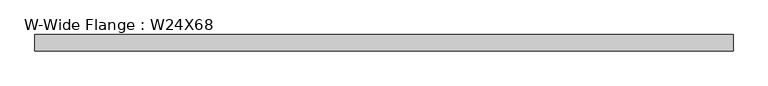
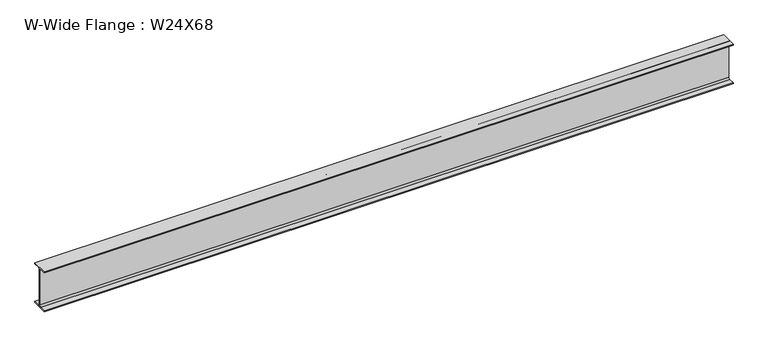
"""IFC4 building model written with IfcOpenShell, lengths in millimetres: beam geometry, W-Wide Flange : W24X68."""

import ifcopenshell
import ifcopenshell.guid

model = None  # the IFC model being written
_history = None  # IfcOwnerHistory: only IFC2X3 demands one
_inside = {}  # id of a spatial element -> (the spatial element, [elements in it])
_under = {}  # id of a project, library or spatial element -> (it, [spatial elements below it])
_declared = {}  # id of a project -> (the project, [libraries it declares])
_typed = {}  # id of a type object -> (the type object, [elements of that type])
_made_of = {}  # id of a material, layer set ... -> (it, [elements and type objects made of it])


def new_model(schema):
    """Start an empty IFC model of exactly this schema.

    Asked for "IFC4X3", IfcOpenShell would pick the latest addendum, in which some entities
    have other attributes; the version numbers below select the first issue.
    IFC2X3 requires an IfcOwnerHistory on every rooted entity: one is made here for all.
    """
    global model, _history
    if schema == "IFC4X3":
        model = ifcopenshell.file(schema_version=(4, 3, 0, 0))
    else:
        model = ifcopenshell.file(schema=schema)
    _inside.clear()
    _under.clear()
    _declared.clear()
    _typed.clear()
    _made_of.clear()
    _history = None
    if model.schema == "IFC2X3":
        org = make("IfcOrganization", Name="unknown")
        user = make(
            "IfcPersonAndOrganization",
            ThePerson=make("IfcPerson", FamilyName="unknown"),
            TheOrganization=org,
        )
        app = make(
            "IfcApplication",
            ApplicationDeveloper=org,
            Version="unknown",
            ApplicationFullName="unknown",
            ApplicationIdentifier="unknown",
        )
        _history = make(
            "IfcOwnerHistory",
            OwningUser=user,
            OwningApplication=app,
            ChangeAction="ADDED",
            CreationDate=0,
        )
    return model


def make(cls, **values):
    """One entity of the class cls with the attributes given. An attribute that is None is left unset."""
    return model.create_entity(
        cls, **{name: value for name, value in values.items() if value is not None}
    )


def rooted(cls, **values):
    """An entity with a GlobalId (a new one), such as an element, a storey or a relation."""
    return make(cls, GlobalId=ifcopenshell.guid.new(), OwnerHistory=_history, **values)


def si_unit(unit_type, name, prefix=None):
    """IfcSIUnit, for example si_unit("LENGTHUNIT", "METRE", prefix="MILLI")."""
    return make("IfcSIUnit", UnitType=unit_type, Prefix=prefix, Name=name)


def assignment(units):
    """IfcUnitAssignment: the units of a project."""
    return None if units is None else make("IfcUnitAssignment", Units=units)


def point(xyz):
    """IfcCartesianPoint."""
    return None if xyz is None else make("IfcCartesianPoint", Coordinates=xyz)


def direction(xyz):
    """IfcDirection."""
    return None if xyz is None else make("IfcDirection", DirectionRatios=xyz)


def frame(location, z_axis=None, x_axis=None):
    """IfcAxis2Placement3D, a coordinate frame: its origin and axes. An axis left out is left unset."""
    return make(
        "IfcAxis2Placement3D",
        Location=point(location),
        Axis=direction(z_axis),
        RefDirection=direction(x_axis),
    )


def frame_2d(location, x_axis=None):
    """IfcAxis2Placement2D, a coordinate frame in the plane: its origin and x axis."""
    return make(
        "IfcAxis2Placement2D", Location=point(location), RefDirection=direction(x_axis)
    )


def origin():
    """The frame at (0, 0, 0) with its axes left unset."""
    return frame((0.0, 0.0, 0.0))


def place(relative_to, where):
    """IfcLocalPlacement: puts the frame where relative to a parent placement (None: the world)."""
    return make(
        "IfcLocalPlacement", PlacementRelTo=relative_to, RelativePlacement=where
    )


def context(
    kind, dimensions, precision=None, world=None, true_north=None, identifier=None
):
    """IfcGeometricRepresentationContext, for example the 3D "Model" context."""
    return make(
        "IfcGeometricRepresentationContext",
        ContextIdentifier=identifier,
        ContextType=kind,
        CoordinateSpaceDimension=dimensions,
        Precision=precision,
        WorldCoordinateSystem=world,
        TrueNorth=true_north,
    )


def project(units=None, contexts=None):
    """IfcProject with its units and contexts."""
    return rooted(
        "IfcProject",
        Name="project",
        RepresentationContexts=contexts,
        UnitsInContext=assignment(units),
    )


def spatial(cls, under=None, at=None, **own):
    """A site, building, storey or space (cls), placed at a placement, below another one or the project."""
    s = rooted(cls, ObjectPlacement=at, **own)
    if under is not None:
        _under.setdefault(under.id(), (under, []))[1].append(s)
    return s


def polyline(points):
    """IfcPolyline through the points."""
    return make("IfcPolyline", Points=[point(p) for p in points])


def circle_curve(where, radius):
    """IfcCircle in the frame where."""
    return make("IfcCircle", Position=where, Radius=radius)


def trimmed(basis, trim1, trim2, sense, master):
    """IfcTrimmedCurve: the piece of a basis curve between two trims."""
    return make(
        "IfcTrimmedCurve",
        BasisCurve=basis,
        Trim1=trim1,
        Trim2=trim2,
        SenseAgreement=sense,
        MasterRepresentation=master,
    )


def segment(curve, same_sense, transition):
    """IfcCompositeCurveSegment."""
    return make(
        "IfcCompositeCurveSegment",
        Transition=transition,
        SameSense=same_sense,
        ParentCurve=curve,
    )


def composite_curve(segments, self_intersect=None):
    """IfcCompositeCurve: segments joined end to end."""
    return make("IfcCompositeCurve", Segments=segments, SelfIntersect=self_intersect)


def outline(outer, holes=None, kind="AREA"):
    """IfcArbitraryClosedProfileDef: a profile drawn as a closed curve; with holes, ...WithVoids."""
    if holes is None:
        return make("IfcArbitraryClosedProfileDef", ProfileType=kind, OuterCurve=outer)
    return make(
        "IfcArbitraryProfileDefWithVoids",
        ProfileType=kind,
        OuterCurve=outer,
        InnerCurves=holes,
    )


def extrude(swept, where, along, depth):
    """IfcExtrudedAreaSolid: the profile swept, set in the frame where, extruded along a direction by depth."""
    return make(
        "IfcExtrudedAreaSolid",
        SweptArea=swept,
        Position=where,
        ExtrudedDirection=direction(along),
        Depth=depth,
    )


def shape(context_of_items, identifier, shape_type, items):
    """IfcShapeRepresentation: the items that make up one representation, for example the "Body"."""
    return make(
        "IfcShapeRepresentation",
        ContextOfItems=context_of_items,
        RepresentationIdentifier=identifier,
        RepresentationType=shape_type,
        Items=items,
    )


def source(mapping_origin, context_of_items, identifier, shape_type, items):
    """IfcRepresentationMap: a shape defined once, which mapped items show again and again."""
    return make(
        "IfcRepresentationMap",
        MappingOrigin=mapping_origin,
        MappedRepresentation=shape(context_of_items, identifier, shape_type, items),
    )


def transform(
    local_origin,
    x_axis=None,
    y_axis=None,
    z_axis=None,
    scale=None,
    scale2=None,
    scale3=None,
    uniform=True,
):
    """IfcCartesianTransformationOperator3D, or its non-uniform kind. x_axis, y_axis, z_axis: its Axis1, 2, 3."""
    if uniform:
        return make(
            "IfcCartesianTransformationOperator3D",
            Axis1=direction(x_axis),
            Axis2=direction(y_axis),
            LocalOrigin=point(local_origin),
            Scale=scale,
            Axis3=direction(z_axis),
        )
    return make(
        "IfcCartesianTransformationOperator3DnonUniform",
        Axis1=direction(x_axis),
        Axis2=direction(y_axis),
        LocalOrigin=point(local_origin),
        Scale=scale,
        Axis3=direction(z_axis),
        Scale2=scale2,
        Scale3=scale3,
    )


def mapped(mapping_source, mapping_target):
    """IfcMappedItem: shows the shape of a source again, moved by a transform."""
    return make(
        "IfcMappedItem", MappingSource=mapping_source, MappingTarget=mapping_target
    )


def made_of(thing, what):
    """Note that an element or type object is made of a material, layer set ...; save() writes the relation."""
    if what is not None:
        _made_of.setdefault(what.id(), (what, []))[1].append(thing)
    return thing


def element(
    cls,
    number,
    at=None,
    inside=None,
    cuts=None,
    type_object=None,
    material=None,
    context=None,
    identifier="Body",
    shape_type=None,
    held_by="IfcProductDefinitionShape",
    body=None,
    shapes=None,
    **own,
):
    """One element of the class cls, such as IfcWall. Its Tag is "e" and its number.

    at: its placement. inside: the storey or other place that contains it. cuts: it is an
    opening in that element (IfcRelVoidsElement). A single representation is given by context,
    identifier, shape_type and body (its items); several are given by shapes. held_by: the class
    of the entity that holds the representations. save() writes the other relations.
    """
    e = rooted(cls, Tag="e%d" % number, ObjectPlacement=at, **own)
    if body is not None:
        shapes = [shape(context, identifier, shape_type, body)]
    if shapes is not None:
        e.Representation = make(held_by, Representations=shapes)
    if inside is not None:
        _inside.setdefault(inside.id(), (inside, []))[1].append(e)
    if cuts is not None:
        rooted(
            "IfcRelVoidsElement", RelatingBuildingElement=cuts, RelatedOpeningElement=e
        )
    if type_object is not None:
        _typed.setdefault(type_object.id(), (type_object, []))[1].append(e)
    return made_of(e, material)


def aggregate(whole, parts):
    """IfcRelAggregates: a whole, such as a stair, and the parts it consists of."""
    return rooted("IfcRelAggregates", RelatingObject=whole, RelatedObjects=parts)


def save(model, path):
    """Write the relations noted so far, then the file.

    IfcRelAggregates (storeys below a building ...), IfcRelContainedInSpatialStructure (elements
    in a storey), IfcRelDefinesByType, IfcRelAssociatesMaterial and IfcRelDeclares: one each for
    every whole, place, type object, material and project.
    """
    for whole, parts in _under.values():
        aggregate(whole, parts)
    for where, things in _inside.values():
        rooted(
            "IfcRelContainedInSpatialStructure",
            RelatedElements=things,
            RelatingStructure=where,
        )
    for kind, things in _typed.values():
        rooted("IfcRelDefinesByType", RelatedObjects=things, RelatingType=kind)
    for what, things in _made_of.values():
        rooted("IfcRelAssociatesMaterial", RelatedObjects=things, RelatingMaterial=what)
    for by, libraries in _declared.values():
        rooted("IfcRelDeclares", RelatingContext=by, RelatedDefinitions=libraries)
    model.write(path)


def w_wide_flange_w24x68_64a19b5f(model_context):
    return source(origin(), model_context, "Body", "SweptSolid", [
        extrude(outline(composite_curve([segment(polyline([(113.919, -286.131), (113.919, -300.99), (-113.919, -300.99), (-113.919, -286.131), (-28.5115, -286.131)]), True, "CONTINUOUS"), segment(trimmed(circle_curve(frame_2d((-28.5115, -262.89)), 23.241), [point((-28.5115, -286.131))], [point((-5.2705, -262.89))], True, "CARTESIAN"), True, "CONTINUOUS"), segment(polyline([(-5.2705, -262.89), (-5.2705, 262.89)]), True, "CONTINUOUS"), segment(trimmed(circle_curve(frame_2d((-28.5115, 262.89)), 23.241), [point((-5.2705, 262.89))], [point((-28.5115, 286.131))], True, "CARTESIAN"), True, "CONTINUOUS"), segment(polyline([(-28.5115, 286.131), (-113.919, 286.131), (-113.919, 300.99), (113.919, 300.99), (113.919, 286.131), (28.5115, 286.131)]), True, "CONTINUOUS"), segment(trimmed(circle_curve(frame_2d((28.5115, 262.89)), 23.241), [point((28.5115, 286.131))], [point((5.2705, 262.89))], True, "CARTESIAN"), True, "CONTINUOUS"), segment(polyline([(5.2705, 262.89), (5.2705, -262.89)]), True, "CONTINUOUS"), segment(trimmed(circle_curve(frame_2d((28.5115, -262.89)), 23.241), [point((5.2705, -262.89))], [point((28.5115, -286.131))], True, "CARTESIAN"), True, "CONTINUOUS"), segment(polyline([(28.5115, -286.131), (113.919, -286.131)]), True, "CONTINUOUS")], self_intersect=False)), frame((-4913.63, 0.0, 0.0), z_axis=(1.0, 0.0, 0.0), x_axis=(0.0, 1.0, 0.0)), (0.0, 0.0, 1.0), 9828.53),
    ])


if __name__ == "__main__":
    model = new_model("IFC4")
    model_context = context("Model", 3, world=origin())
    ifc_project = project(units=[si_unit("LENGTHUNIT", "METRE", prefix="MILLI")], contexts=[model_context])
    site = spatial("IfcSite", under=ifc_project)
    building = spatial("IfcBuilding", under=site)
    placement = place(None, origin())
    w_wide_flange_w24x68_shape = w_wide_flange_w24x68_64a19b5f(model_context)
    element("IfcBeam", 1, ObjectType="W-Wide Flange : W24X68", at=placement, inside=building, context=model_context, shape_type="MappedRepresentation", body=[
        mapped(w_wide_flange_w24x68_shape, transform((0.0, 0.0, 0.0), x_axis=(1.0, 0.0, 0.0), y_axis=(0.0, 1.0, 0.0), z_axis=(0.0, 0.0, 1.0))),
    ])
    save(model, "model.ifc")
